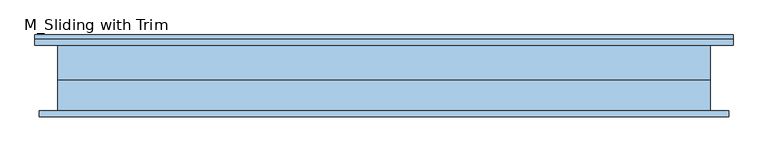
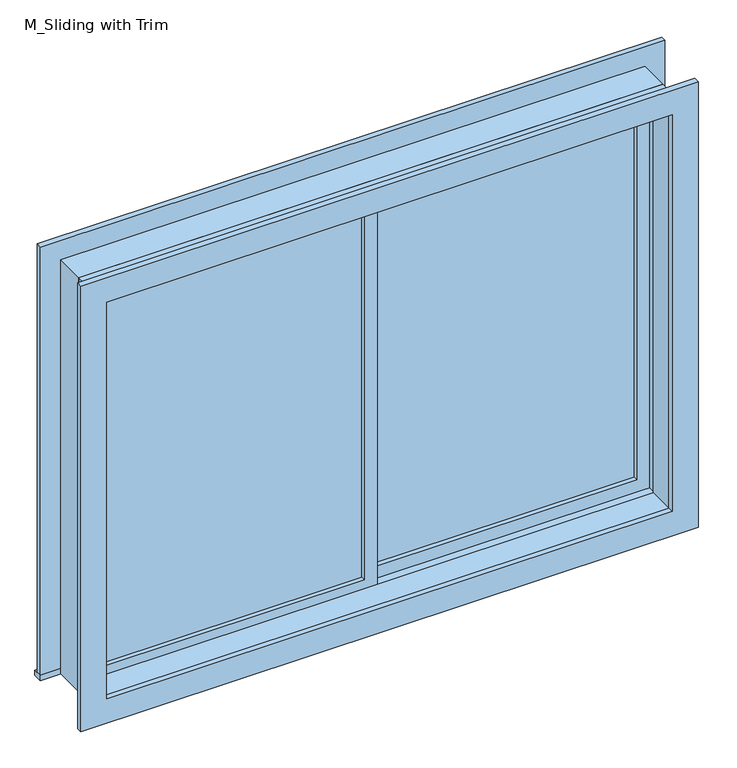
"""IFC4 building model written with IfcOpenShell, lengths in millimetres: window geometry, M_Sliding with Trim : ش 1."""

from ifc_helpers import new_model, si_unit, frame, origin, place, context, project, spatial, polyline, outline, extrude, source, transform, mapped, element, save


def m_sliding_with_trim_8e0fa824(model_context):
    return source(origin(), model_context, "Body", "SweptSolid", [
        extrude(outline(polyline([(-936.5, 20.675), (-22.225, 20.675), (-22.225, 7.975), (-936.5, 7.975), (-936.5, 20.675)])), frame((0.0, 0.0, 978.5), z_axis=(0.0, 0.0, 1.0), x_axis=(1.0, 0.0, 0.0)), (0.0, 0.0, 1.0), 1373.0),
        extrude(outline(polyline([(2395.95, -980.95), (934.05, -980.95), (934.05, 22.225), (2395.95, 22.225), (2395.95, -980.95)]), holes=[polyline([(2351.5, -936.5), (2351.5, -22.225), (978.5, -22.225), (978.5, -936.5), (2351.5, -936.5)])]), frame((0.0, -7.9, 0.0), z_axis=(0.0, 1.0, 0.0), x_axis=(0.0, 0.0, 1.0)), (0.0, 0.0, 1.0), 44.45),
        extrude(outline(polyline([(-1069.95, 131.7), (1069.95, 131.7), (1069.95, 100.0), (-1069.95, 100.0), (-1069.95, 131.7)])), frame((0.0, 0.0, 915.0), z_axis=(0.0, 0.0, 1.0), x_axis=(1.0, 0.0, 0.0)), (0.0, 0.0, 1.0), 19.05),
        extrude(outline(polyline([(2395.95, -980.95), (2395.95, 980.95), (934.05, 980.95), (934.05, 1069.95), (2484.95, 1069.95), (2484.95, -1069.95), (934.05, -1069.95), (934.05, -980.95), (2395.95, -980.95)])), frame((0.0, 100.0, 0.0), z_axis=(0.0, 1.0, 0.0), x_axis=(0.0, 0.0, 1.0)), (0.0, 0.0, 1.0), 19.0),
        extrude(outline(polyline([(2472.25, 1057.25), (2472.25, -1057.25), (857.75, -1057.25), (857.75, 1057.25), (2472.25, 1057.25)]), holes=[polyline([(2383.25, 968.25), (946.75, 968.25), (946.75, -968.25), (2383.25, -968.25), (2383.25, 968.25)])]), frame((0.0, -119.0, 0.0), z_axis=(0.0, 1.0, 0.0), x_axis=(0.0, 0.0, 1.0)), (0.0, 0.0, 1.0), 19.0),
        extrude(outline(polyline([(936.5, 52.425), (22.225, 52.425), (22.225, 65.125), (936.5, 65.125), (936.5, 52.425)])), frame((0.0, 0.0, 978.5), z_axis=(0.0, 0.0, 1.0), x_axis=(1.0, 0.0, 0.0)), (0.0, 0.0, 1.0), 1373.0),
        extrude(outline(polyline([(2395.95, -22.225), (934.05, -22.225), (934.05, 980.95), (2395.95, 980.95), (2395.95, -22.225)]), holes=[polyline([(2351.5, 22.225), (2351.5, 936.5), (978.5, 936.5), (978.5, 22.225), (2351.5, 22.225)])]), frame((0.0, 36.55, 0.0), z_axis=(0.0, 1.0, 0.0), x_axis=(0.0, 0.0, 1.0)), (0.0, 0.0, 1.0), 44.45),
        extrude(outline(polyline([(2415.0, -1000.0), (915.0, -1000.0), (915.0, 1000.0), (2415.0, 1000.0), (2415.0, -1000.0)]), holes=[polyline([(2383.25, -968.25), (2383.25, 968.25), (946.75, 968.25), (946.75, -968.25), (2383.25, -968.25)])]), frame((0.0, -100.0, 0.0), z_axis=(0.0, 1.0, 0.0), x_axis=(0.0, 0.0, 1.0)), (0.0, 0.0, 1.0), 92.1),
        extrude(outline(polyline([(2415.0, 1000.0), (2415.0, -1000.0), (915.0, -1000.0), (915.0, 1000.0), (2415.0, 1000.0)]), holes=[polyline([(2395.95, 980.95), (934.05, 980.95), (934.05, -980.95), (2395.95, -980.95), (2395.95, 980.95)])]), frame((0.0, -7.9, 0.0), z_axis=(0.0, 1.0, 0.0), x_axis=(0.0, 0.0, 1.0)), (0.0, 0.0, 1.0), 107.9),
    ])


if __name__ == "__main__":
    model = new_model("IFC4")
    model_context = context("Model", 3, world=origin())
    ifc_project = project(units=[si_unit("LENGTHUNIT", "METRE", prefix="MILLI")], contexts=[model_context])
    site = spatial("IfcSite", under=ifc_project)
    building = spatial("IfcBuilding", under=site)
    placement = place(None, origin())
    m_sliding_with_trim_shape = m_sliding_with_trim_8e0fa824(model_context)
    element("IfcWindow", 1, ObjectType="M_Sliding with Trim : ش 1", at=placement, inside=building, context=model_context, shape_type="MappedRepresentation", body=[
        mapped(m_sliding_with_trim_shape, transform((0.0, 0.0, 0.0), x_axis=(1.0, 0.0, 0.0), y_axis=(0.0, 1.0, 0.0), z_axis=(0.0, 0.0, 1.0))),
    ])
    save(model, "model.ifc")
